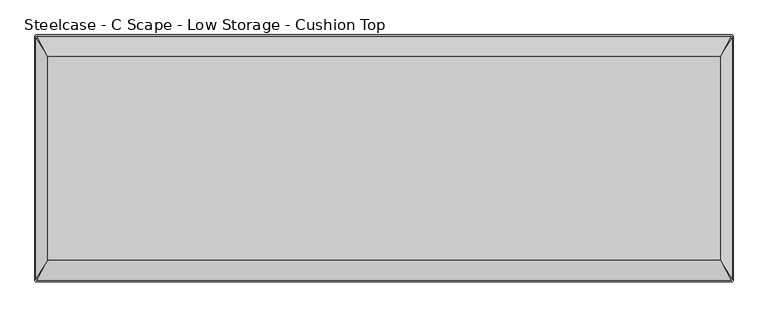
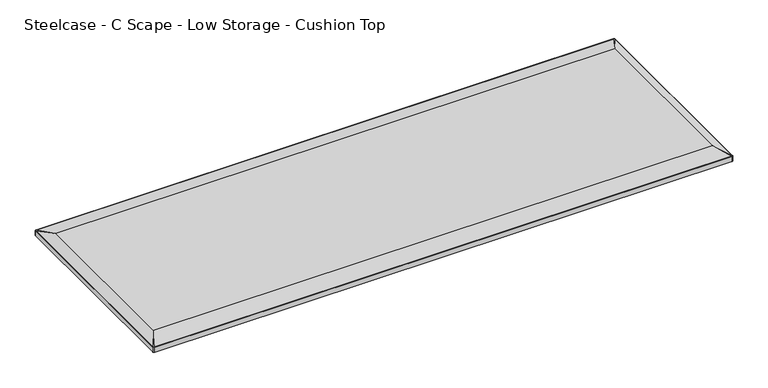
"""IFC4 building model written with IfcOpenShell, lengths in millimetres: furniture geometry, Steelcase - C Scape - Low Storage - Cushion Top : 17D x 48W."""

import ifcopenshell
import ifcopenshell.guid

model = None  # the IFC model being written
_history = None  # IfcOwnerHistory: only IFC2X3 demands one
_inside = {}  # id of a spatial element -> (the spatial element, [elements in it])
_under = {}  # id of a project, library or spatial element -> (it, [spatial elements below it])
_declared = {}  # id of a project -> (the project, [libraries it declares])
_typed = {}  # id of a type object -> (the type object, [elements of that type])
_made_of = {}  # id of a material, layer set ... -> (it, [elements and type objects made of it])


def new_model(schema):
    """Start an empty IFC model of exactly this schema.

    Asked for "IFC4X3", IfcOpenShell would pick the latest addendum, in which some entities
    have other attributes; the version numbers below select the first issue.
    IFC2X3 requires an IfcOwnerHistory on every rooted entity: one is made here for all.
    """
    global model, _history
    if schema == "IFC4X3":
        model = ifcopenshell.file(schema_version=(4, 3, 0, 0))
    else:
        model = ifcopenshell.file(schema=schema)
    _inside.clear()
    _under.clear()
    _declared.clear()
    _typed.clear()
    _made_of.clear()
    _history = None
    if model.schema == "IFC2X3":
        org = make("IfcOrganization", Name="unknown")
        user = make(
            "IfcPersonAndOrganization",
            ThePerson=make("IfcPerson", FamilyName="unknown"),
            TheOrganization=org,
        )
        app = make(
            "IfcApplication",
            ApplicationDeveloper=org,
            Version="unknown",
            ApplicationFullName="unknown",
            ApplicationIdentifier="unknown",
        )
        _history = make(
            "IfcOwnerHistory",
            OwningUser=user,
            OwningApplication=app,
            ChangeAction="ADDED",
            CreationDate=0,
        )
    return model


def make(cls, **values):
    """One entity of the class cls with the attributes given. An attribute that is None is left unset."""
    return model.create_entity(
        cls, **{name: value for name, value in values.items() if value is not None}
    )


def rooted(cls, **values):
    """An entity with a GlobalId (a new one), such as an element, a storey or a relation."""
    return make(cls, GlobalId=ifcopenshell.guid.new(), OwnerHistory=_history, **values)


def si_unit(unit_type, name, prefix=None):
    """IfcSIUnit, for example si_unit("LENGTHUNIT", "METRE", prefix="MILLI")."""
    return make("IfcSIUnit", UnitType=unit_type, Prefix=prefix, Name=name)


def assignment(units):
    """IfcUnitAssignment: the units of a project."""
    return None if units is None else make("IfcUnitAssignment", Units=units)


def point(xyz):
    """IfcCartesianPoint."""
    return None if xyz is None else make("IfcCartesianPoint", Coordinates=xyz)


def direction(xyz):
    """IfcDirection."""
    return None if xyz is None else make("IfcDirection", DirectionRatios=xyz)


def frame(location, z_axis=None, x_axis=None):
    """IfcAxis2Placement3D, a coordinate frame: its origin and axes. An axis left out is left unset."""
    return make(
        "IfcAxis2Placement3D",
        Location=point(location),
        Axis=direction(z_axis),
        RefDirection=direction(x_axis),
    )


def frame_2d(location, x_axis=None):
    """IfcAxis2Placement2D, a coordinate frame in the plane: its origin and x axis."""
    return make(
        "IfcAxis2Placement2D", Location=point(location), RefDirection=direction(x_axis)
    )


def origin():
    """The frame at (0, 0, 0) with its axes left unset."""
    return frame((0.0, 0.0, 0.0))


def place(relative_to, where):
    """IfcLocalPlacement: puts the frame where relative to a parent placement (None: the world)."""
    return make(
        "IfcLocalPlacement", PlacementRelTo=relative_to, RelativePlacement=where
    )


def context(
    kind, dimensions, precision=None, world=None, true_north=None, identifier=None
):
    """IfcGeometricRepresentationContext, for example the 3D "Model" context."""
    return make(
        "IfcGeometricRepresentationContext",
        ContextIdentifier=identifier,
        ContextType=kind,
        CoordinateSpaceDimension=dimensions,
        Precision=precision,
        WorldCoordinateSystem=world,
        TrueNorth=true_north,
    )


def project(units=None, contexts=None):
    """IfcProject with its units and contexts."""
    return rooted(
        "IfcProject",
        Name="project",
        RepresentationContexts=contexts,
        UnitsInContext=assignment(units),
    )


def spatial(cls, under=None, at=None, **own):
    """A site, building, storey or space (cls), placed at a placement, below another one or the project."""
    s = rooted(cls, ObjectPlacement=at, **own)
    if under is not None:
        _under.setdefault(under.id(), (under, []))[1].append(s)
    return s


def polyline(points):
    """IfcPolyline through the points."""
    return make("IfcPolyline", Points=[point(p) for p in points])


def circle_curve(where, radius):
    """IfcCircle in the frame where."""
    return make("IfcCircle", Position=where, Radius=radius)


def trimmed(basis, trim1, trim2, sense, master):
    """IfcTrimmedCurve: the piece of a basis curve between two trims."""
    return make(
        "IfcTrimmedCurve",
        BasisCurve=basis,
        Trim1=trim1,
        Trim2=trim2,
        SenseAgreement=sense,
        MasterRepresentation=master,
    )


def segment(curve, same_sense, transition):
    """IfcCompositeCurveSegment."""
    return make(
        "IfcCompositeCurveSegment",
        Transition=transition,
        SameSense=same_sense,
        ParentCurve=curve,
    )


def composite_curve(segments, self_intersect=None):
    """IfcCompositeCurve: segments joined end to end."""
    return make("IfcCompositeCurve", Segments=segments, SelfIntersect=self_intersect)


def outline(outer, holes=None, kind="AREA"):
    """IfcArbitraryClosedProfileDef: a profile drawn as a closed curve; with holes, ...WithVoids."""
    if holes is None:
        return make("IfcArbitraryClosedProfileDef", ProfileType=kind, OuterCurve=outer)
    return make(
        "IfcArbitraryProfileDefWithVoids",
        ProfileType=kind,
        OuterCurve=outer,
        InnerCurves=holes,
    )


def extrude(swept, where, along, depth):
    """IfcExtrudedAreaSolid: the profile swept, set in the frame where, extruded along a direction by depth."""
    return make(
        "IfcExtrudedAreaSolid",
        SweptArea=swept,
        Position=where,
        ExtrudedDirection=direction(along),
        Depth=depth,
    )


def shape(context_of_items, identifier, shape_type, items):
    """IfcShapeRepresentation: the items that make up one representation, for example the "Body"."""
    return make(
        "IfcShapeRepresentation",
        ContextOfItems=context_of_items,
        RepresentationIdentifier=identifier,
        RepresentationType=shape_type,
        Items=items,
    )


def source(mapping_origin, context_of_items, identifier, shape_type, items):
    """IfcRepresentationMap: a shape defined once, which mapped items show again and again."""
    return make(
        "IfcRepresentationMap",
        MappingOrigin=mapping_origin,
        MappedRepresentation=shape(context_of_items, identifier, shape_type, items),
    )


def transform(
    local_origin,
    x_axis=None,
    y_axis=None,
    z_axis=None,
    scale=None,
    scale2=None,
    scale3=None,
    uniform=True,
):
    """IfcCartesianTransformationOperator3D, or its non-uniform kind. x_axis, y_axis, z_axis: its Axis1, 2, 3."""
    if uniform:
        return make(
            "IfcCartesianTransformationOperator3D",
            Axis1=direction(x_axis),
            Axis2=direction(y_axis),
            LocalOrigin=point(local_origin),
            Scale=scale,
            Axis3=direction(z_axis),
        )
    return make(
        "IfcCartesianTransformationOperator3DnonUniform",
        Axis1=direction(x_axis),
        Axis2=direction(y_axis),
        LocalOrigin=point(local_origin),
        Scale=scale,
        Axis3=direction(z_axis),
        Scale2=scale2,
        Scale3=scale3,
    )


def mapped(mapping_source, mapping_target):
    """IfcMappedItem: shows the shape of a source again, moved by a transform."""
    return make(
        "IfcMappedItem", MappingSource=mapping_source, MappingTarget=mapping_target
    )


def made_of(thing, what):
    """Note that an element or type object is made of a material, layer set ...; save() writes the relation."""
    if what is not None:
        _made_of.setdefault(what.id(), (what, []))[1].append(thing)
    return thing


def element(
    cls,
    number,
    at=None,
    inside=None,
    cuts=None,
    type_object=None,
    material=None,
    context=None,
    identifier="Body",
    shape_type=None,
    held_by="IfcProductDefinitionShape",
    body=None,
    shapes=None,
    **own,
):
    """One element of the class cls, such as IfcWall. Its Tag is "e" and its number.

    at: its placement. inside: the storey or other place that contains it. cuts: it is an
    opening in that element (IfcRelVoidsElement). A single representation is given by context,
    identifier, shape_type and body (its items); several are given by shapes. held_by: the class
    of the entity that holds the representations. save() writes the other relations.
    """
    e = rooted(cls, Tag="e%d" % number, ObjectPlacement=at, **own)
    if body is not None:
        shapes = [shape(context, identifier, shape_type, body)]
    if shapes is not None:
        e.Representation = make(held_by, Representations=shapes)
    if inside is not None:
        _inside.setdefault(inside.id(), (inside, []))[1].append(e)
    if cuts is not None:
        rooted(
            "IfcRelVoidsElement", RelatingBuildingElement=cuts, RelatedOpeningElement=e
        )
    if type_object is not None:
        _typed.setdefault(type_object.id(), (type_object, []))[1].append(e)
    return made_of(e, material)


def aggregate(whole, parts):
    """IfcRelAggregates: a whole, such as a stair, and the parts it consists of."""
    return rooted("IfcRelAggregates", RelatingObject=whole, RelatedObjects=parts)


def save(model, path):
    """Write the relations noted so far, then the file.

    IfcRelAggregates (storeys below a building ...), IfcRelContainedInSpatialStructure (elements
    in a storey), IfcRelDefinesByType, IfcRelAssociatesMaterial and IfcRelDeclares: one each for
    every whole, place, type object, material and project.
    """
    for whole, parts in _under.values():
        aggregate(whole, parts)
    for where, things in _inside.values():
        rooted(
            "IfcRelContainedInSpatialStructure",
            RelatedElements=things,
            RelatingStructure=where,
        )
    for kind, things in _typed.values():
        rooted("IfcRelDefinesByType", RelatedObjects=things, RelatingType=kind)
    for what, things in _made_of.values():
        rooted("IfcRelAssociatesMaterial", RelatedObjects=things, RelatingMaterial=what)
    for by, libraries in _declared.values():
        rooted("IfcRelDeclares", RelatingContext=by, RelatedDefinitions=libraries)
    model.write(path)


def plane_surface(at):
    """IfcPlane: the flat surface through the origin of the frame at, square to its z axis."""
    return make("IfcPlane", Position=at)


def spline_surface(u_degree, v_degree, points, u_multiplicities, v_multiplicities, u_knots, v_knots, weights=None):
    """IfcBSplineSurfaceWithKnots; with weights, IfcRationalBSplineSurfaceWithKnots. points: one row for each step in u."""
    own = dict(
        UDegree=u_degree,
        VDegree=v_degree,
        ControlPointsList=[[point(p) for p in row] for row in points],
        SurfaceForm="UNSPECIFIED",
        UClosed=False,
        VClosed=False,
        SelfIntersect=False,
        UMultiplicities=u_multiplicities,
        VMultiplicities=v_multiplicities,
        UKnots=u_knots,
        VKnots=v_knots,
        KnotSpec="UNSPECIFIED",
    )
    if weights is None:
        return make("IfcBSplineSurfaceWithKnots", **own)
    return make("IfcRationalBSplineSurfaceWithKnots", WeightsData=weights, **own)


def advanced_brep(points, edges, surfaces, faces):
    """IfcAdvancedBrep: a solid bounded by faces that lie on surfaces and meet in shared edges.

    An edge is (start, end): straight between two places in points (the first is 0);
    or (start, end, curve); or (start, end, curve, False) where it runs against its curve.
    A face is (place in surfaces, loops), or (place, loops, False) where it looks against
    its surface's normal. A loop lists edges by number (the first is 1), with a minus sign
    where the edge is run from its end to its start. The first loop is the outer one.
    """
    corners = [point(p) for p in points]
    vertices = [make("IfcVertexPoint", VertexGeometry=c) for c in corners]
    made = []
    for start, end, *more in edges:
        made.append(
            make(
                "IfcEdgeCurve",
                EdgeStart=vertices[start],
                EdgeEnd=vertices[end],
                EdgeGeometry=more[0] if more else make("IfcPolyline", Points=[corners[start], corners[end]]),
                SameSense=more[1] if len(more) > 1 else True,
            )
        )
    hull = []
    for where, loops, *sense in faces:
        bounds = []
        for j, loop in enumerate(loops):
            ring = [make("IfcOrientedEdge", EdgeElement=made[abs(k) - 1], Orientation=k > 0) for k in loop]
            bounds.append(
                make(
                    "IfcFaceOuterBound" if j == 0 else "IfcFaceBound",
                    Bound=make("IfcEdgeLoop", EdgeList=ring),
                    Orientation=True,
                )
            )
        hull.append(make("IfcAdvancedFace", Bounds=bounds, FaceSurface=surfaces[where], SameSense=sense[0] if sense else True))
    return make("IfcAdvancedBrep", Outer=make("IfcClosedShell", CfsFaces=hull))


def steelcase_c_scape_low_storage_cushion_top_9a257a5c(model_context):
    return source(origin(), model_context, "Body", "SolidModel", [
        extrude(outline(composite_curve([segment(trimmed(circle_curve(frame_2d((1216.66, 213.36)), 2.54), [point((1216.66, 215.9))], [point((1219.2, 213.36))], False, "CARTESIAN"), True, "CONTINUOUS"), segment(polyline([(1219.2, 213.36), (1219.2, -213.36)]), True, "CONTINUOUS"), segment(trimmed(circle_curve(frame_2d((1216.66, -213.36)), 2.54), [point((1219.2, -213.36))], [point((1216.66, -215.9))], False, "CARTESIAN"), True, "CONTINUOUS"), segment(polyline([(1216.66, -215.9), (2.54, -215.9)]), True, "CONTINUOUS"), segment(trimmed(circle_curve(frame_2d((2.54, -213.36)), 2.54), [point((2.54, -215.9))], [point((0.0, -213.36))], False, "CARTESIAN"), True, "CONTINUOUS"), segment(polyline([(0.0, -213.36), (0.0, 213.36)]), True, "CONTINUOUS"), segment(trimmed(circle_curve(frame_2d((2.54, 213.36)), 2.54), [point((0.0, 213.36))], [point((2.54, 215.9))], False, "CARTESIAN"), True, "CONTINUOUS"), segment(polyline([(2.54, 215.9), (1216.66, 215.9)]), True, "CONTINUOUS")], self_intersect=False)), frame((0.0, 0.0, 599.44), z_axis=(0.0, 0.0, 1.0), x_axis=(1.0, 0.0, 0.0)), (0.0, 0.0, 1.0), 10.9220174),
        advanced_brep(
        [(1216.66, 215.9, 610.3620174), (1219.2, 213.36, 610.3620174), (1219.2, -213.36, 610.3620174), (1216.66, -215.9, 610.3620174), (2.54, -215.9, 610.3620174), (0.0, -213.36, 610.3620174), (0.0, 213.36, 610.3620174), (2.54, 215.9, 610.3620174), (1197.102, 177.5206021, 618.4900097), (22.0725989, 177.5206021, 618.4900097), (22.0725989, -177.5206021, 618.4900097), (1197.102, -177.5206021, 618.4900097)],
        [
            (0, 1, circle_curve(frame((1216.66, 213.36, 610.3620174), z_axis=(0.0, 0.0, -1.0), x_axis=(1.0, 0.0, 0.0)), 2.54)),
            (1, 2),
            (2, 3, circle_curve(frame((1216.66, -213.36, 610.3620174), z_axis=(0.0, 0.0, -1.0), x_axis=(1.0, 0.0, 0.0)), 2.54)),
            (3, 4),
            (4, 5, circle_curve(frame((2.54, -213.36, 610.3620174), z_axis=(0.0, 0.0, -1.0), x_axis=(1.0, 0.0, 0.0)), 2.54)),
            (5, 6),
            (6, 7, circle_curve(frame((2.54, 213.36, 610.3620174), z_axis=(0.0, 0.0, -1.0), x_axis=(1.0, 0.0, 0.0)), 2.54)),
            (7, 0),
            (8, 9),
            (9, 10),
            (10, 11),
            (11, 8),
            (8, 0),
            (7, 9),
            (9, 6),
            (5, 10),
            (10, 4),
            (3, 11),
            (11, 2),
            (1, 8),
        ],
        [
            plane_surface(frame((609.6, 0.0, 610.3620174), z_axis=(0.0, 0.0, -1.0), x_axis=(-1.0, 0.0, 0.0))),
            plane_surface(frame((609.5872995, 0.0, 618.4900097), z_axis=(0.0, 0.0, 1.0), x_axis=(-1.0, 0.0, 0.0))),
            plane_surface(frame((609.5872995, 177.5206021, 618.4900097), z_axis=(0.0, 0.20718484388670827, 0.9783018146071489), x_axis=(1.0, 0.0, 0.0))),
            plane_surface(frame((22.0725989, 0.0, 618.4900097), z_axis=(-0.3455549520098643, 0.0, 0.9383985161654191), x_axis=(0.0, 1.0, 0.0))),
            plane_surface(frame((609.5872995, -177.5206021, 618.4900097), z_axis=(0.0, -0.20718484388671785, 0.9783018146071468), x_axis=(-1.0, 0.0, 0.0))),
            plane_surface(frame((1197.102, 0.0, 618.4900097), z_axis=(0.345205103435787, 0.0, 0.9385272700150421), x_axis=(0.0, -1.0, 0.0))),
            spline_surface(2, 1, [[(1197.102, 177.5206021, 618.4900097), (1216.66, 215.9, 610.3620174)], [(1197.102, 177.5206021, 618.4900097), (1219.2, 215.90000000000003, 610.3620174)], [(1197.102, 177.5206021, 618.4900097), (1219.2, 213.36, 610.3620174)]], [3, 3], [2, 2], [0.0, 1.0], [0.0, 1.0], weights=[[1.0, 1.0], [0.7071067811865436, 0.7071067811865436], [1.0, 1.0]]),
            spline_surface(2, 1, [[(1197.102, -177.5206021, 618.4900097), (1219.2, -213.36, 610.3620174)], [(1197.102, -177.5206021, 618.4900097), (1219.2, -215.89999999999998, 610.3620174)], [(1197.102, -177.5206021, 618.4900097), (1216.66, -215.9, 610.3620174)]], [3, 3], [2, 2], [0.0, 1.0], [0.0, 1.0], weights=[[1.0, 1.0], [0.7071067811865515, 0.7071067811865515], [1.0, 1.0]]),
            spline_surface(2, 1, [[(22.0725989, -177.5206021, 618.4900097), (2.54, -215.9, 610.3620174)], [(22.0725989, -177.5206021, 618.4900097), (7.993605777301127e-15, -215.9, 610.3620174)], [(22.0725989, -177.5206021, 618.4900097), (0.0, -213.36, 610.3620174)]], [3, 3], [2, 2], [0.0, 1.0], [0.0, 1.0], weights=[[1.0, 1.0], [0.7071067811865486, 0.7071067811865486], [1.0, 1.0]]),
            spline_surface(2, 1, [[(22.0725989, 177.5206021, 618.4900097), (0.0, 213.36, 610.3620174)], [(22.0725989, 177.5206021, 618.4900097), (-8.43769498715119e-15, 215.9, 610.3620174)], [(22.0725989, 177.5206021, 618.4900097), (2.54, 215.9, 610.3620174)]], [3, 3], [2, 2], [0.0, 1.0], [0.0, 1.0], weights=[[1.0, 1.0], [0.7071067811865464, 0.7071067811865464], [1.0, 1.0]]),
        ],
        [
            (0, [[1, 2, 3, 4, 5, 6, 7, 8]]),
            (1, [[9, 10, 11, 12]]),
            (2, [[-9, 13, -8, 14]]),
            (3, [[-10, 15, -6, 16]]),
            (4, [[-11, 17, -4, 18]]),
            (5, [[-12, 19, -2, 20]]),
            (6, [[-1, -13, -20]]),
            (7, [[-3, -19, -18]]),
            (8, [[-5, -17, -16]]),
            (9, [[-7, -15, -14]]),
        ],
    ),
    ])


if __name__ == "__main__":
    model = new_model("IFC4")
    model_context = context("Model", 3, world=origin())
    ifc_project = project(units=[si_unit("LENGTHUNIT", "METRE", prefix="MILLI")], contexts=[model_context])
    site = spatial("IfcSite", under=ifc_project)
    building = spatial("IfcBuilding", under=site)
    placement = place(None, origin())
    steelcase_c_scape_low_storage_cushion_top_shape = steelcase_c_scape_low_storage_cushion_top_9a257a5c(model_context)
    element("IfcFurniture", 1, ObjectType="Steelcase - C Scape - Low Storage - Cushion Top : 17D x 48W", at=placement, inside=building, context=model_context, shape_type="MappedRepresentation", body=[
        mapped(steelcase_c_scape_low_storage_cushion_top_shape, transform((0.0, 0.0, 0.0), x_axis=(1.0, 0.0, 0.0), y_axis=(0.0, 1.0, 0.0), z_axis=(0.0, 0.0, 1.0))),
    ])
    save(model, "model.ifc")
